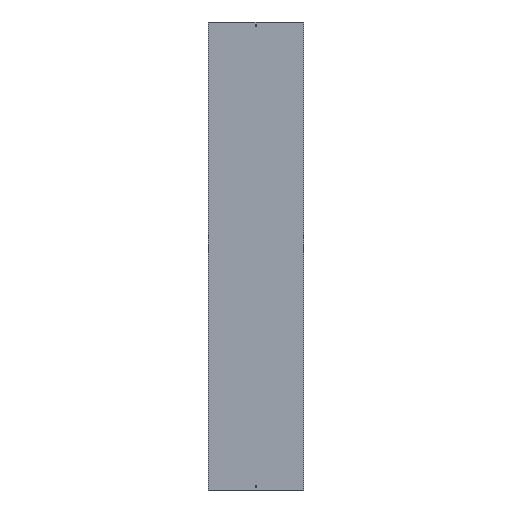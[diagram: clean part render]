
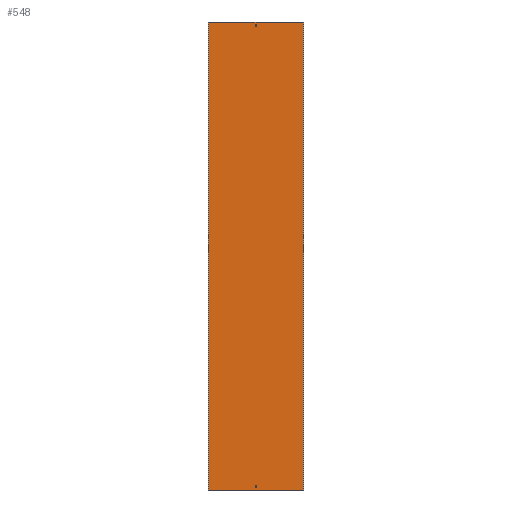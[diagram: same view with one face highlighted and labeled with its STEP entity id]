
A CAD part, front view. The second image highlights one B-rep face of the part: STEP entity #548.
In plain terms, the highlighted planar face has unit normal (0, -1, 0).
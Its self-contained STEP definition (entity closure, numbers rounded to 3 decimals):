
#6 = CARTESIAN_POINT ( 'NONE',  ( -3.25, -1.5, -979. ) ) ;
#11 = CARTESIAN_POINT ( 'NONE',  ( 202., -1.5, -1000. ) ) ;
#14 = CARTESIAN_POINT ( 'NONE',  ( 202., -1.5, 1000. ) ) ;
#17 = LINE ( 'NONE', #372, #282 ) ;
#19 = ORIENTED_EDGE ( 'NONE', *, *, #440, .F. ) ;
#20 = CARTESIAN_POINT ( 'NONE',  ( -203.5, -1.5, -988. ) ) ;
#22 = CARTESIAN_POINT ( 'NONE',  ( 3.25, -1.5, 1000. ) ) ;
#27 = CARTESIAN_POINT ( 'NONE',  ( -202., -1.5, -1000. ) ) ;
#30 = EDGE_CURVE ( 'NONE', #540, #64, #533, .T. ) ;
#31 = VECTOR ( 'NONE', #474, 1000. ) ;
#37 = CARTESIAN_POINT ( 'NONE',  ( -203.5, -1.5, 979. ) ) ;
#47 = EDGE_LOOP ( 'NONE', ( #470, #520, #448, #296 ) ) ;
#64 = VERTEX_POINT ( 'NONE', #352 ) ;
#73 = LINE ( 'NONE', #563, #572 ) ;
#76 = PLANE ( 'NONE',  #544 ) ;
#108 = VECTOR ( 'NONE', #158, 1000. ) ;
#112 = DIRECTION ( 'NONE',  ( 0., 0., -1. ) ) ;
#115 = CARTESIAN_POINT ( 'NONE',  ( 3.25, -1.5, 988. ) ) ;
#121 = VERTEX_POINT ( 'NONE', #11 ) ;
#122 = FACE_BOUND ( 'NONE', #259, .T. ) ;
#128 = DIRECTION ( 'NONE',  ( -1., 0., 0. ) ) ;
#135 = VERTEX_POINT ( 'NONE', #6 ) ;
#155 = VECTOR ( 'NONE', #159, 1000. ) ;
#156 = VECTOR ( 'NONE', #232, 1000. ) ;
#158 = DIRECTION ( 'NONE',  ( 0., 0., 1. ) ) ;
#159 = DIRECTION ( 'NONE',  ( -1., 0., 0. ) ) ;
#162 = FACE_BOUND ( 'NONE', #452, .T. ) ;
#167 = ORIENTED_EDGE ( 'NONE', *, *, #30, .F. ) ;
#182 = DIRECTION ( 'NONE',  ( -1., 0., 0. ) ) ;
#184 = CARTESIAN_POINT ( 'NONE',  ( 202., -1.5, 1000. ) ) ;
#185 = ORIENTED_EDGE ( 'NONE', *, *, #558, .T. ) ;
#200 = EDGE_CURVE ( 'NONE', #121, #363, #555, .T. ) ;
#202 = DIRECTION ( 'NONE',  ( 0., 0., -1. ) ) ;
#204 = EDGE_CURVE ( 'NONE', #328, #363, #502, .T. ) ;
#207 = DIRECTION ( 'NONE',  ( 1., 0., 0. ) ) ;
#232 = DIRECTION ( 'NONE',  ( 0., 0., -1. ) ) ;
#233 = VECTOR ( 'NONE', #128, 1000. ) ;
#235 = LINE ( 'NONE', #14, #156 ) ;
#236 = CARTESIAN_POINT ( 'NONE',  ( 3.25, -1.5, -979. ) ) ;
#240 = DIRECTION ( 'NONE',  ( 0., -1., 0. ) ) ;
#248 = CARTESIAN_POINT ( 'NONE',  ( -202., -1.5, 1000. ) ) ;
#259 = EDGE_LOOP ( 'NONE', ( #511, #167, #19, #409 ) ) ;
#264 = CARTESIAN_POINT ( 'NONE',  ( -202., -1.5, 1000. ) ) ;
#265 = ORIENTED_EDGE ( 'NONE', *, *, #498, .T. ) ;
#267 = EDGE_CURVE ( 'NONE', #279, #493, #418, .T. ) ;
#279 = VERTEX_POINT ( 'NONE', #236 ) ;
#282 = VECTOR ( 'NONE', #521, 1000. ) ;
#283 = LINE ( 'NONE', #329, #31 ) ;
#285 = VERTEX_POINT ( 'NONE', #184 ) ;
#288 = CARTESIAN_POINT ( 'NONE',  ( -203.5, -1.5, 1000. ) ) ;
#289 = CARTESIAN_POINT ( 'NONE',  ( -203.5, -1.5, 1000. ) ) ;
#291 = DIRECTION ( 'NONE',  ( -1., 0., 0. ) ) ;
#294 = CARTESIAN_POINT ( 'NONE',  ( -3.25, -1.5, 1000. ) ) ;
#296 = ORIENTED_EDGE ( 'NONE', *, *, #204, .T. ) ;
#324 = EDGE_CURVE ( 'NONE', #285, #328, #488, .T. ) ;
#326 = LINE ( 'NONE', #20, #469 ) ;
#328 = VERTEX_POINT ( 'NONE', #248 ) ;
#329 = CARTESIAN_POINT ( 'NONE',  ( -3.25, -1.5, 1000. ) ) ;
#348 = CARTESIAN_POINT ( 'NONE',  ( -3.25, -1.5, -988. ) ) ;
#352 = CARTESIAN_POINT ( 'NONE',  ( -3.25, -1.5, 988. ) ) ;
#359 = CARTESIAN_POINT ( 'NONE',  ( -203.5, -1.5, -1000. ) ) ;
#360 = VERTEX_POINT ( 'NONE', #348 ) ;
#362 = EDGE_CURVE ( 'NONE', #428, #537, #447, .T. ) ;
#363 = VERTEX_POINT ( 'NONE', #27 ) ;
#372 = CARTESIAN_POINT ( 'NONE',  ( 3.25, -1.5, 1000. ) ) ;
#380 = CARTESIAN_POINT ( 'NONE',  ( 3.25, -1.5, -988. ) ) ;
#386 = CARTESIAN_POINT ( 'NONE',  ( -203.5, -1.5, 988. ) ) ;
#397 = FACE_OUTER_BOUND ( 'NONE', #47, .T. ) ;
#409 = ORIENTED_EDGE ( 'NONE', *, *, #362, .F. ) ;
#418 = LINE ( 'NONE', #22, #483 ) ;
#428 = VERTEX_POINT ( 'NONE', #514 ) ;
#440 = EDGE_CURVE ( 'NONE', #537, #540, #17, .T. ) ;
#447 = LINE ( 'NONE', #37, #574 ) ;
#448 = ORIENTED_EDGE ( 'NONE', *, *, #324, .T. ) ;
#452 = EDGE_LOOP ( 'NONE', ( #265, #185, #476, #556 ) ) ;
#455 = DIRECTION ( 'NONE',  ( 0., 0., -1. ) ) ;
#469 = VECTOR ( 'NONE', #182, 1000. ) ;
#470 = ORIENTED_EDGE ( 'NONE', *, *, #200, .F. ) ;
#471 = DIRECTION ( 'NONE',  ( 1., 0., 0. ) ) ;
#472 = EDGE_CURVE ( 'NONE', #64, #428, #283, .T. ) ;
#474 = DIRECTION ( 'NONE',  ( 0., 0., -1. ) ) ;
#476 = ORIENTED_EDGE ( 'NONE', *, *, #528, .T. ) ;
#483 = VECTOR ( 'NONE', #112, 1000. ) ;
#487 = EDGE_CURVE ( 'NONE', #285, #121, #235, .T. ) ;
#488 = LINE ( 'NONE', #288, #501 ) ;
#493 = VERTEX_POINT ( 'NONE', #380 ) ;
#498 = EDGE_CURVE ( 'NONE', #493, #360, #326, .T. ) ;
#501 = VECTOR ( 'NONE', #291, 1000. ) ;
#502 = LINE ( 'NONE', #264, #579 ) ;
#511 = ORIENTED_EDGE ( 'NONE', *, *, #472, .F. ) ;
#514 = CARTESIAN_POINT ( 'NONE',  ( -3.25, -1.5, 979. ) ) ;
#520 = ORIENTED_EDGE ( 'NONE', *, *, #487, .F. ) ;
#521 = DIRECTION ( 'NONE',  ( 0., 0., 1. ) ) ;
#524 = CARTESIAN_POINT ( 'NONE',  ( 3.25, -1.5, 979. ) ) ;
#528 = EDGE_CURVE ( 'NONE', #135, #279, #73, .T. ) ;
#533 = LINE ( 'NONE', #386, #155 ) ;
#537 = VERTEX_POINT ( 'NONE', #524 ) ;
#540 = VERTEX_POINT ( 'NONE', #115 ) ;
#544 = AXIS2_PLACEMENT_3D ( 'NONE', #289, #240, #202 ) ;
#548 = ADVANCED_FACE ( 'NONE', ( #122, #397, #162 ), #76, .T. ) ;
#555 = LINE ( 'NONE', #359, #233 ) ;
#556 = ORIENTED_EDGE ( 'NONE', *, *, #267, .T. ) ;
#558 = EDGE_CURVE ( 'NONE', #360, #135, #580, .T. ) ;
#563 = CARTESIAN_POINT ( 'NONE',  ( -203.5, -1.5, -979. ) ) ;
#572 = VECTOR ( 'NONE', #471, 1000. ) ;
#574 = VECTOR ( 'NONE', #207, 1000. ) ;
#579 = VECTOR ( 'NONE', #455, 1000. ) ;
#580 = LINE ( 'NONE', #294, #108 ) ;
